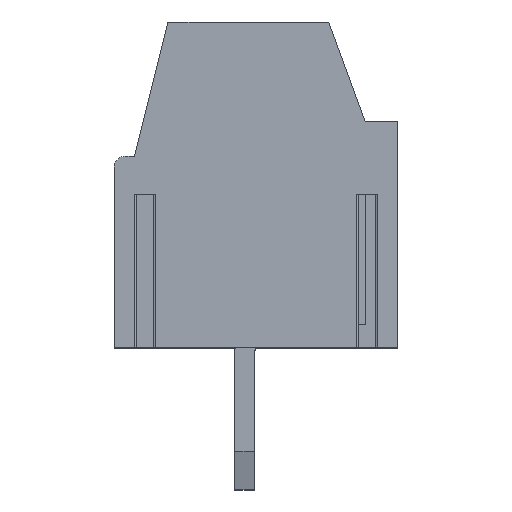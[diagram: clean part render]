
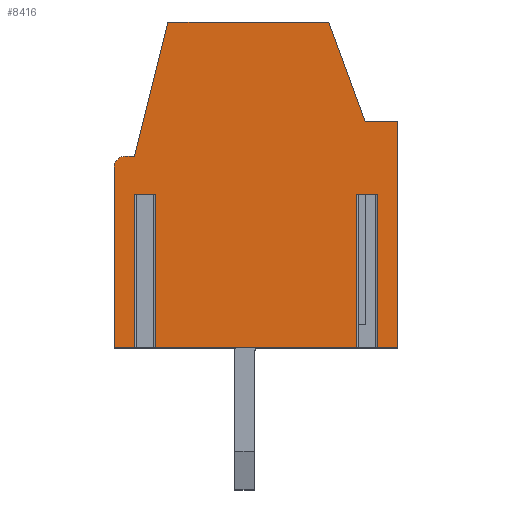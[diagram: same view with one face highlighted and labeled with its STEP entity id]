
A CAD part, top view. The second image highlights one B-rep face of the part: STEP entity #8416.
In plain terms, the highlighted planar face has unit normal (0, 0, 1).
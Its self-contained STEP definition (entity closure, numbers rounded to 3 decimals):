
#273=DIRECTION('',(1.,0.,0.));
#274=VECTOR('',#273,0.535);
#275=CARTESIAN_POINT('',(0.,3.7,-3.5));
#276=LINE('',#275,#274);
#309=DIRECTION('',(1.,0.,0.));
#310=VECTOR('',#309,5.27);
#311=CARTESIAN_POINT('',(1.065,3.7,-3.5));
#312=LINE('',#311,#310);
#345=DIRECTION('',(1.,0.,0.));
#346=VECTOR('',#345,0.535);
#347=CARTESIAN_POINT('',(6.865,3.7,-3.5));
#348=LINE('',#347,#346);
#593=DIRECTION('',(0.,1.,0.));
#594=VECTOR('',#593,5.9);
#595=CARTESIAN_POINT('',(7.4,3.7,-3.5));
#596=LINE('',#595,#594);
#1349=DIRECTION('',(0.,-1.,0.));
#1350=VECTOR('',#1349,4.);
#1351=CARTESIAN_POINT('',(6.865,7.7,-3.5));
#1352=LINE('',#1351,#1350);
#1357=DIRECTION('',(-1.,0.,0.));
#1358=VECTOR('',#1357,0.53);
#1359=CARTESIAN_POINT('',(6.865,7.7,-3.5));
#1360=LINE('',#1359,#1358);
#1361=DIRECTION('',(-1.,0.,0.));
#1362=VECTOR('',#1361,0.53);
#1363=CARTESIAN_POINT('',(1.065,7.7,-3.5));
#1364=LINE('',#1363,#1362);
#1365=DIRECTION('',(0.,1.,0.));
#1366=VECTOR('',#1365,4.7);
#1367=CARTESIAN_POINT('',(0.,3.7,-3.5));
#1368=LINE('',#1367,#1366);
#1369=CARTESIAN_POINT('',(0.3,8.4,-3.5));
#1370=DIRECTION('',(0.,0.,-1.));
#1371=DIRECTION('',(-1.,0.,0.));
#1372=AXIS2_PLACEMENT_3D('',#1369,#1370,#1371);
#1374=DIRECTION('',(1.,0.,0.));
#1375=VECTOR('',#1374,0.227);
#1376=CARTESIAN_POINT('',(0.3,8.7,-3.5));
#1377=LINE('',#1376,#1375);
#1378=DIRECTION('',(0.242,0.97,0.));
#1379=VECTOR('',#1378,3.607);
#1380=CARTESIAN_POINT('',(0.527,8.7,-3.5));
#1381=LINE('',#1380,#1379);
#1382=DIRECTION('',(1.,0.,0.));
#1383=VECTOR('',#1382,4.2);
#1384=CARTESIAN_POINT('',(1.4,12.2,-3.5));
#1385=LINE('',#1384,#1383);
#1386=DIRECTION('',(0.343,-0.939,0.));
#1387=VECTOR('',#1386,2.768);
#1388=CARTESIAN_POINT('',(5.6,12.2,-3.5));
#1389=LINE('',#1388,#1387);
#1390=DIRECTION('',(1.,0.,0.));
#1391=VECTOR('',#1390,0.85);
#1392=CARTESIAN_POINT('',(6.55,9.6,-3.5));
#1393=LINE('',#1392,#1391);
#1394=DIRECTION('',(0.,1.,0.));
#1395=VECTOR('',#1394,4.);
#1396=CARTESIAN_POINT('',(6.335,3.7,-3.5));
#1397=LINE('',#1396,#1395);
#1402=DIRECTION('',(0.,-1.,0.));
#1403=VECTOR('',#1402,4.);
#1404=CARTESIAN_POINT('',(1.065,7.7,-3.5));
#1405=LINE('',#1404,#1403);
#1430=DIRECTION('',(0.,1.,0.));
#1431=VECTOR('',#1430,4.);
#1432=CARTESIAN_POINT('',(0.535,3.7,-3.5));
#1433=LINE('',#1432,#1431);
#5511=CARTESIAN_POINT('',(7.4,3.7,-3.5));
#5513=VERTEX_POINT('',#5511);
#5549=CARTESIAN_POINT('',(0.,3.7,-3.5));
#5550=VERTEX_POINT('',#5549);
#5551=CARTESIAN_POINT('',(0.535,3.7,-3.5));
#5552=VERTEX_POINT('',#5551);
#5565=CARTESIAN_POINT('',(1.065,3.7,-3.5));
#5566=VERTEX_POINT('',#5565);
#5567=CARTESIAN_POINT('',(6.335,3.7,-3.5));
#5568=VERTEX_POINT('',#5567);
#5581=CARTESIAN_POINT('',(6.865,3.7,-3.5));
#5582=VERTEX_POINT('',#5581);
#5710=CARTESIAN_POINT('',(5.6,12.2,-3.5));
#5712=VERTEX_POINT('',#5710);
#5721=CARTESIAN_POINT('',(6.55,9.6,-3.5));
#5722=VERTEX_POINT('',#5721);
#5724=CARTESIAN_POINT('',(1.4,12.2,-3.5));
#5726=VERTEX_POINT('',#5724);
#5838=CARTESIAN_POINT('',(7.4,9.6,-3.5));
#5839=VERTEX_POINT('',#5838);
#5850=CARTESIAN_POINT('',(6.865,7.7,-3.5));
#5851=CARTESIAN_POINT('',(6.335,7.7,-3.5));
#5852=VERTEX_POINT('',#5850);
#5853=VERTEX_POINT('',#5851);
#5854=CARTESIAN_POINT('',(1.065,7.7,-3.5));
#5855=VERTEX_POINT('',#5854);
#5856=CARTESIAN_POINT('',(0.535,7.7,-3.5));
#5857=VERTEX_POINT('',#5856);
#5858=CARTESIAN_POINT('',(0.,8.4,-3.5));
#5859=VERTEX_POINT('',#5858);
#5860=CARTESIAN_POINT('',(0.3,8.7,-3.5));
#5861=VERTEX_POINT('',#5860);
#5862=CARTESIAN_POINT('',(0.527,8.7,-3.5));
#5863=VERTEX_POINT('',#5862);
#8387=CARTESIAN_POINT('',(3.7,7.95,-3.5));
#8388=DIRECTION('',(0.,0.,1.));
#8389=DIRECTION('',(1.,0.,0.));
#8390=AXIS2_PLACEMENT_3D('',#8387,#8388,#8389);
#8391=PLANE('',#8390);
#8392=ORIENTED_EDGE('',*,*,#8291,.T.);
#8394=ORIENTED_EDGE('',*,*,#8393,.F.);
#8395=ORIENTED_EDGE('',*,*,#7094,.F.);
#8397=ORIENTED_EDGE('',*,*,#8396,.F.);
#8399=ORIENTED_EDGE('',*,*,#8398,.T.);
#8401=ORIENTED_EDGE('',*,*,#8400,.F.);
#8402=ORIENTED_EDGE('',*,*,#7078,.F.);
#8403=ORIENTED_EDGE('',*,*,#7395,.T.);
#8404=ORIENTED_EDGE('',*,*,#7381,.T.);
#8405=ORIENTED_EDGE('',*,*,#7366,.T.);
#8406=ORIENTED_EDGE('',*,*,#7351,.T.);
#8407=ORIENTED_EDGE('',*,*,#7318,.T.);
#8408=ORIENTED_EDGE('',*,*,#7303,.T.);
#8410=ORIENTED_EDGE('',*,*,#8409,.T.);
#8411=ORIENTED_EDGE('',*,*,#7245,.F.);
#8412=ORIENTED_EDGE('',*,*,#7110,.F.);
#8413=ORIENTED_EDGE('',*,*,#8379,.F.);
#8414=EDGE_LOOP('',(#8392,#8394,#8395,#8397,#8399,#8401,#8402,#8403,#8404,#8405,
#8406,#8407,#8408,#8410,#8411,#8412,#8413));
#8415=FACE_OUTER_BOUND('',#8414,.F.);
#8416=ADVANCED_FACE('',(#8415),#8391,.T.);
#1373=CIRCLE('',#1372,0.3);
#7078=EDGE_CURVE('',#5550,#5552,#276,.T.);
#7094=EDGE_CURVE('',#5566,#5568,#312,.T.);
#7110=EDGE_CURVE('',#5582,#5513,#348,.T.);
#7245=EDGE_CURVE('',#5513,#5839,#596,.T.);
#7303=EDGE_CURVE('',#5712,#5722,#1389,.T.);
#7318=EDGE_CURVE('',#5726,#5712,#1385,.T.);
#7351=EDGE_CURVE('',#5863,#5726,#1381,.T.);
#7366=EDGE_CURVE('',#5861,#5863,#1377,.T.);
#7381=EDGE_CURVE('',#5859,#5861,#1373,.T.);
#7395=EDGE_CURVE('',#5550,#5859,#1368,.T.);
#8291=EDGE_CURVE('',#5852,#5853,#1360,.T.);
#8379=EDGE_CURVE('',#5852,#5582,#1352,.T.);
#8393=EDGE_CURVE('',#5568,#5853,#1397,.T.);
#8396=EDGE_CURVE('',#5855,#5566,#1405,.T.);
#8398=EDGE_CURVE('',#5855,#5857,#1364,.T.);
#8400=EDGE_CURVE('',#5552,#5857,#1433,.T.);
#8409=EDGE_CURVE('',#5722,#5839,#1393,.T.);
